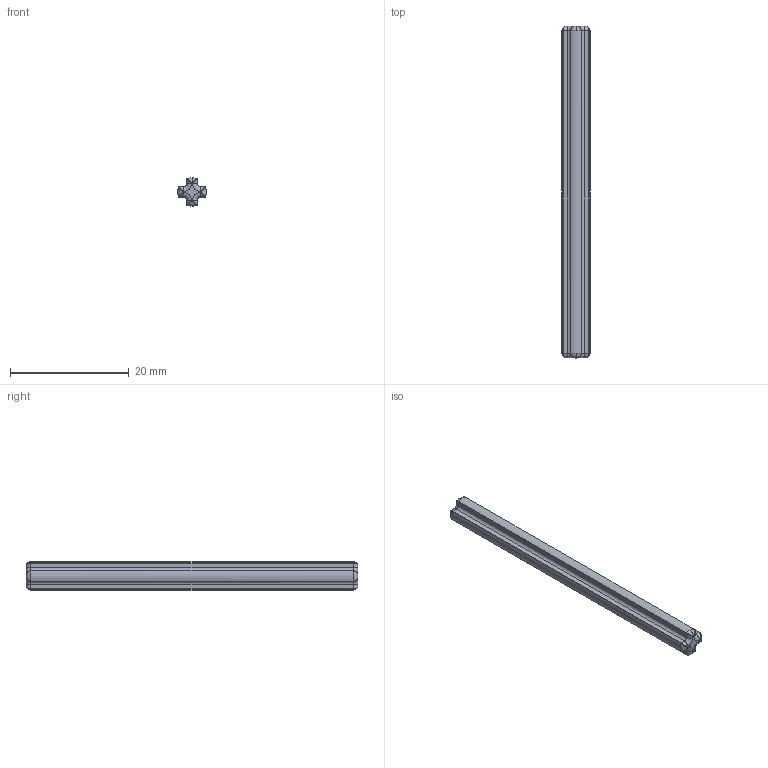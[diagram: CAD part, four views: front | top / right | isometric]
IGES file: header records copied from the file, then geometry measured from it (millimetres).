
Start section: C
Global section: file name: ClGray_4211805_JCA.iges; native system: By Siemens PLM Incorporated; preprocessor: XPlus GENERIC/IGES 26.1.183; author: Author; organization: Title; date: 20250721.235319; units: millimetre
Bounding box: 4.8 x 56 x 4.8 mm (x, y, z)
Surface area: 966.5 mm2 (no closed solid volume)
Topology: 0 solids, 0 shells, 77 faces, 338 edges, 322 vertices
Faces by surface type: bspline 77
